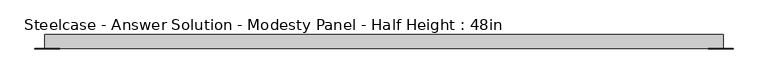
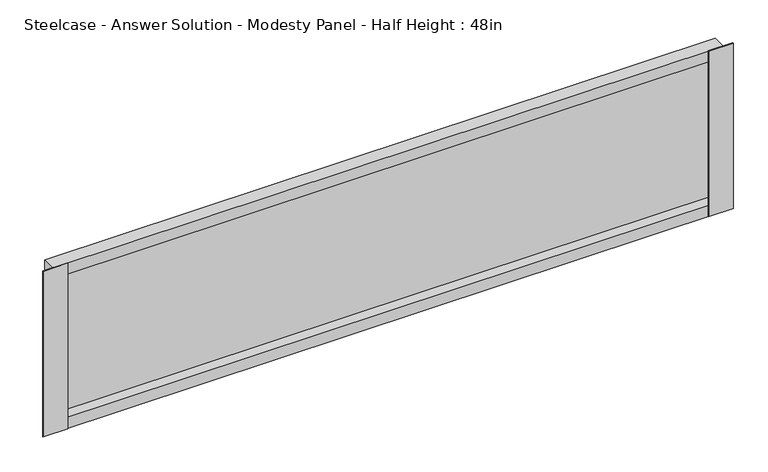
"""IFC4 building model written with IfcOpenShell, lengths in millimetres: furniture geometry, Steelcase - Answer Solution - Modesty Panel - Half Height : 48in."""

from ifc_helpers import new_model, si_unit, frame, origin, place, context, project, spatial, polyline, outline, extrude, faceted_brep, source, transform, mapped, element, save


def steelcase_answer_solution_modesty_panel_half_height_48in_4ddf96ad(model_context):
    return source(origin(), model_context, "Body", "SolidModel", [
        extrude(outline(polyline([(1762.7400478, -14.2668826), (1762.7400478, -15.0593624), (1718.3248254, -15.0593624), (1718.3248254, -14.2668826), (1762.7400478, -14.2668826)])), frame((0.0, 0.0, 17.653), z_axis=(0.0, 0.0, 1.0), x_axis=(1.0, 0.0, 0.0)), (0.0, 0.0, 1.0), 317.5),
        extrude(outline(polyline([(556.9673392, -14.2668826), (556.9673392, -15.0593624), (512.5520826, -15.0593624), (512.5520826, -14.2668826), (556.9673392, -14.2668826)])), frame((0.0, 0.0, 17.653), z_axis=(0.0, 0.0, 1.0), x_axis=(1.0, 0.0, 0.0)), (0.0, 0.0, 1.0), 317.5),
        faceted_brep([(530.0780827, 10.9045177, 17.653), (530.0780827, -14.2668826, 17.653), (530.0780827, -14.2668826, 335.153), (530.0780827, 10.9045177, 335.153), (1745.2140827, -14.2668826, 17.653), (1745.2140827, 10.9045177, 17.653), (1745.2140827, 10.9045177, 335.153), (1745.2140827, -14.2668826, 335.153), (1744.4216165, 4.7831174, 39.243), (530.8705628, 4.7831174, 39.243), (530.8705628, -14.2668826, 39.243), (1744.4216165, -14.2668826, 39.243), (530.8705628, -14.2668826, 313.563), (1744.4216165, -14.2668826, 313.563), (530.8705628, 4.7831174, 313.563), (1744.4216165, 4.7831174, 313.563)], [[[0, 1, 2, 3]], [[4, 5, 6, 7]], [[8, 9, 10, 11]], [[0, 3, 6, 5]], [[4, 1, 0, 5]], [[2, 1, 4, 7], [10, 12, 13, 11]], [[3, 2, 7, 6]], [[14, 15, 13, 12]], [[9, 8, 15, 14]], [[12, 10, 9, 14]], [[11, 13, 15, 8]]]),
    ])


if __name__ == "__main__":
    model = new_model("IFC4")
    model_context = context("Model", 3, world=origin())
    ifc_project = project(units=[si_unit("LENGTHUNIT", "METRE", prefix="MILLI")], contexts=[model_context])
    site = spatial("IfcSite", under=ifc_project)
    building = spatial("IfcBuilding", under=site)
    placement = place(None, origin())
    steelcase_answer_solution_modesty_panel_half_height_48in_shape = steelcase_answer_solution_modesty_panel_half_height_48in_4ddf96ad(model_context)
    element("IfcFurniture", 1, ObjectType="Steelcase - Answer Solution - Modesty Panel - Half Height : 48in", at=placement, inside=building, context=model_context, shape_type="MappedRepresentation", body=[
        mapped(steelcase_answer_solution_modesty_panel_half_height_48in_shape, transform((0.0, 0.0, 0.0), x_axis=(1.0, 0.0, 0.0), y_axis=(0.0, 1.0, 0.0), z_axis=(0.0, 0.0, 1.0))),
    ])
    save(model, "model.ifc")
